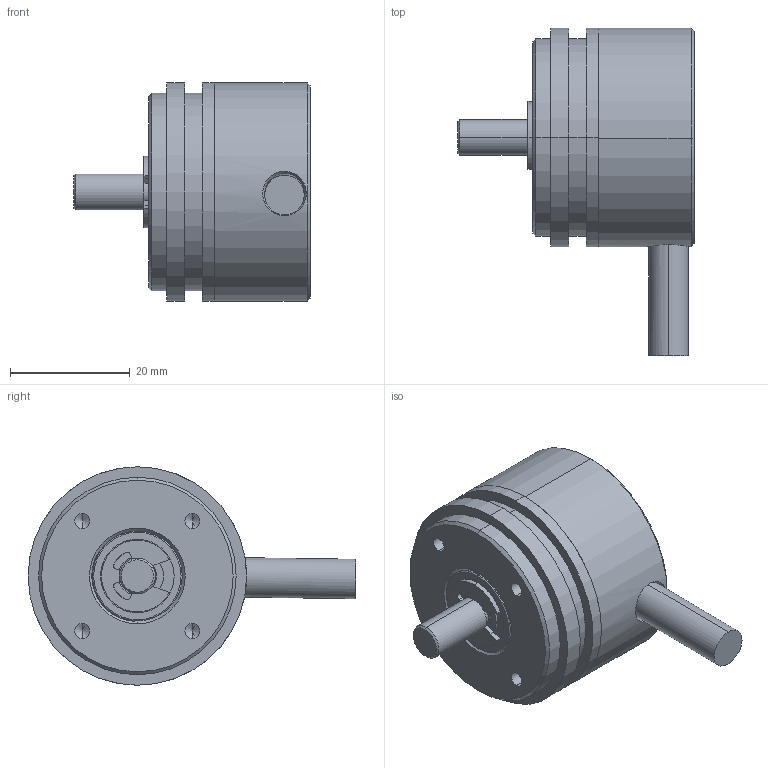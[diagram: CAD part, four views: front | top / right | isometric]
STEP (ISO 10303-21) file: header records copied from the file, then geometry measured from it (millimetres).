
FILE_DESCRIPTION (( 'STEP AP214' ), '1' );
FILE_NAME ('ﾋﾈﾐ-ﾌﾀ137ﾀ.STEP', '2017-05-23T08:35:57', ( '' ), ( '' ), 'SwSTEP 2.0', 'SolidWorks 2013', '' );
FILE_SCHEMA (( 'AUTOMOTIVE_DESIGN' ));
Length unit declared in the file: millimetre
Products named in the file (1): ﾋﾈﾐ-ﾌﾀ137ﾀ
Bounding box: 39.5 x 54.76 x 36.5 mm (x, y, z)
Volume: 18446.1 mm3; surface area: 15049.7 mm2
Topology: 13 solids, 13 shells, 666 faces, 1942 edges, 1254 vertices
Faces by surface type: sphere 192, cylinder 185, cone 112, torus 92, plane 70, bspline 15
Entity records: 38343 total; most frequent: CARTESIAN_POINT 13956, ORIENTED_EDGE 3848, DIRECTION 3320, EDGE_CURVE 1924, AXIS2_PLACEMENT_3D 1480, VERTEX_POINT 1254, CIRCLE 828, EDGE_LOOP 750
